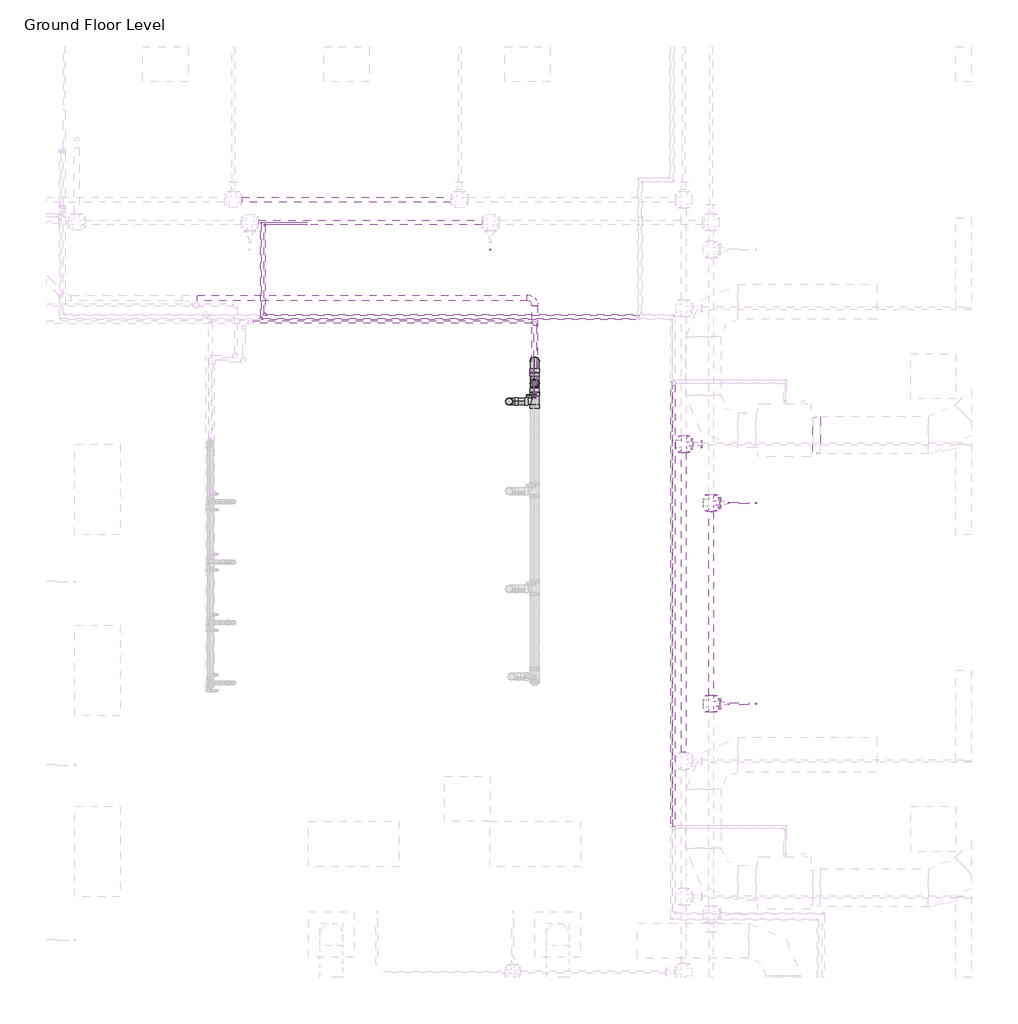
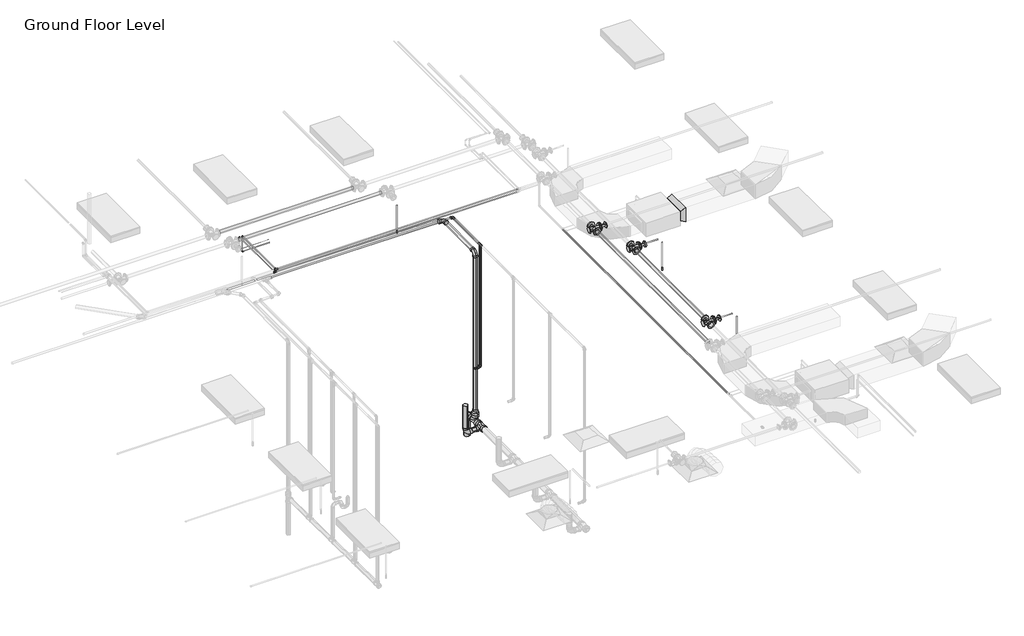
# One storey, part 65 of 72: 32 pipe segments, 24 pipe fittings, 3 fire suppression terminals, 1 duct fitting.
"""IFC4 building model written with IfcOpenShell, lengths in millimetres."""

from ifc_helpers import new_model, si_unit, point, frame, frame_2d, origin, place, context, project, spatial, circle_curve, trimmed, segment, composite_curve, outline, extrude, transform, mapped, element, save
from components import m_rectangular_transition_angle_45_degree_2b595dfe, m_sprinkler_pendent_15_mm_pendent_06fcbd8e, m_bend_pvc_sch_40_dwv_standard_a4b99d37, m_bend_pvc_sch_40_dwv_standard_b7b4a97e, m_bend_pvc_sch_40_dwv_standard_c8221c0d, m_bend_pvc_sch_40_dwv_standard_69456cca, m_elbow_generic_standard_a088f956, m_elbow_generic_standard_2a704253, m_elbow_generic_standard_6b1a80c6, m_elbow_generic_standard_5542be81, m_reducer_flanged_cs_class_150_standard_9dfe9ec5, m_reducer_flanged_cs_class_150_standard_a7631c35, m_reducer_pvc_sch_40_dwv_standard_9996614f, m_tee_generic_standard_cdc1cff5, m_tee_generic_standard_bbfc025c, m_tee_reducing_sanitary_pvc_sch_40_dwv_standard_b49161a9, m_tee_reducing_sanitary_pvc_sch_40_dwv_standard_c42f3c59, m_tee_round_base_flanged_cs_class_150_standard_dd767e04, m_transition_generic_standard_e9aec4dd, m_transition_generic_standard_c2658a33, standard_517a5a8d, standard_72b35c3b

model = new_model("IFC4")

# Units and contexts
model_context = context("Model", 3, world=origin())
ifc_project = project(units=[si_unit("LENGTHUNIT", "METRE", prefix="MILLI")], contexts=[model_context])

# Site, building, storey
site = spatial("IfcSite", under=ifc_project)
building = spatial("IfcBuilding", under=site)
storey = spatial("IfcBuildingStorey", under=building, Name="Ground Floor Level", Elevation=900.0)

# Duct fitting
placement = place(None, origin())
m_rectangular_transition_angle_45_degree_shape = m_rectangular_transition_angle_45_degree_2b595dfe(model_context)
element("IfcDuctFitting", 1, ObjectType="M_Rectangular Transition - Angle : 45 Degree", at=placement, inside=storey, context=model_context, shape_type="MappedRepresentation", body=[
    mapped(m_rectangular_transition_angle_45_degree_shape, transform((7344.2139492, 11956.1779527, 4100.0057729), x_axis=(1.0, 0.0, 0.0), y_axis=(0.0, 1.0, 0.0), z_axis=(0.0, 0.0, 1.0))),
])

# Fire suppression terminals
m_sprinkler_pendent_15_mm_pendent_shape = m_sprinkler_pendent_15_mm_pendent_06fcbd8e(model_context)
element("IfcFireSuppressionTerminal", 2, ObjectType="M_Sprinkler - Pendent : 15 mm Pendent", at=placement, inside=storey, context=model_context, shape_type="MappedRepresentation", body=[
    mapped(m_sprinkler_pendent_15_mm_pendent_shape, transform((3071.8868905, 14412.7243649, 3650.0), x_axis=(1.0, 0.0, 0.0), y_axis=(0.0, 1.0, 0.0), z_axis=(0.0, 0.0, 1.0))),
])
element("IfcFireSuppressionTerminal", 3, ObjectType="M_Sprinkler - Pendent : 15 mm Pendent", at=placement, inside=storey, context=model_context, shape_type="MappedRepresentation", body=[
    mapped(m_sprinkler_pendent_15_mm_pendent_shape, transform((6592.5481019, 11054.9808263, 3650.0), x_axis=(1.0, 0.0, 0.0), y_axis=(0.0, 1.0, 0.0), z_axis=(0.0, 0.0, 1.0))),
])
element("IfcFireSuppressionTerminal", 4, ObjectType="M_Sprinkler - Pendent : 15 mm Pendent", at=placement, inside=storey, context=model_context, shape_type="MappedRepresentation", body=[
    mapped(m_sprinkler_pendent_15_mm_pendent_shape, transform((6592.5481019, 8393.5579106, 3650.0), x_axis=(1.0, 0.0, 0.0), y_axis=(0.0, 1.0, 0.0), z_axis=(0.0, 0.0, 1.0))),
])

# Pipe fittings
m_bend_pvc_sch_40_dwv_standard_shape = m_bend_pvc_sch_40_dwv_standard_a4b99d37(model_context)
element("IfcPipeFitting", 5, ObjectType="M_Bend - PVC - Sch 40 - DWV : Standard", at=placement, inside=storey, context=model_context, shape_type="MappedRepresentation", body=[
    mapped(m_bend_pvc_sch_40_dwv_standard_shape, transform((3319.2245422, 12401.0385609, 390.1593073), x_axis=(0.0, 0.0, -1.0), y_axis=(1.0, 0.0, 0.0), z_axis=(0.0, -1.0, 0.0))),
])
m_bend_pvc_sch_40_dwv_standard_2_shape = m_bend_pvc_sch_40_dwv_standard_b7b4a97e(model_context)
element("IfcPipeFitting", 6, ObjectType="M_Bend - PVC - Sch 40 - DWV : Standard", at=placement, inside=storey, context=model_context, shape_type="MappedRepresentation", body=[
    mapped(m_bend_pvc_sch_40_dwv_standard_2_shape, transform((3657.4922763, 12931.9692954, 384.8), x_axis=(0.0, 0.9999500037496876, -0.00999950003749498), y_axis=(0.0, -0.00999950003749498, -0.9999500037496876), z_axis=(-1.0, 0.0, 0.0))),
])
m_bend_pvc_sch_40_dwv_standard_3_shape = m_bend_pvc_sch_40_dwv_standard_c8221c0d(model_context)
element("IfcPipeFitting", 7, ObjectType="M_Bend - PVC - Sch 40 - DWV : Standard", at=placement, inside=storey, context=model_context, shape_type="MappedRepresentation", body=[
    mapped(m_bend_pvc_sch_40_dwv_standard_3_shape, transform((3657.4860907, 12640.4076203, 4054.1870995), x_axis=(0.0, 0.0, 1.0), y_axis=(0.0, 1.0, 0.0), z_axis=(-1.0, 0.0, 0.0))),
])
m_bend_pvc_sch_40_dwv_standard_4_shape = m_bend_pvc_sch_40_dwv_standard_69456cca(model_context)
element("IfcPipeFitting", 8, ObjectType="M_Bend - PVC - Sch 40 - DWV : Standard", at=placement, inside=storey, context=model_context, shape_type="MappedRepresentation", body=[
    mapped(m_bend_pvc_sch_40_dwv_standard_4_shape, transform((3657.4860907, 13768.7316659, 4065.526469), x_axis=(0.0, 0.9999495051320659, 0.010049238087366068), y_axis=(-0.9999499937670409, -0.00010049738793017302, 0.009999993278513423), z_axis=(0.01000049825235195, -0.010048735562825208, 0.9998995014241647))),
])
m_elbow_generic_standard_shape = m_elbow_generic_standard_a088f956(model_context)
element("IfcPipeFitting", 9, ObjectType="M_Elbow - Generic : Standard", at=placement, inside=storey, context=model_context, shape_type="MappedRepresentation", body=[
    mapped(m_elbow_generic_standard_shape, transform((79.6672395, 14745.2153534, 4380.0), x_axis=(0.0, 0.0, 1.0), y_axis=(0.0, -1.0, 0.0), z_axis=(1.0, 0.0, 0.0))),
])
m_elbow_generic_standard_2_shape = m_elbow_generic_standard_2a704253(model_context)
element("IfcPipeFitting", 10, ObjectType="M_Elbow - Generic : Standard", at=placement, inside=storey, context=model_context, shape_type="MappedRepresentation", body=[
    mapped(m_elbow_generic_standard_2_shape, transform((29.9807053, 14770.2153534, 4365.0), x_axis=(0.0, 0.0, 1.0), y_axis=(0.0, -1.0, 0.0), z_axis=(1.0, 0.0, 0.0))),
])
m_elbow_generic_standard_3_shape = m_elbow_generic_standard_6b1a80c6(model_context)
element("IfcPipeFitting", 11, ObjectType="M_Elbow - Generic : Standard", at=placement, inside=storey, context=model_context, shape_type="MappedRepresentation", body=[
    mapped(m_elbow_generic_standard_3_shape, transform((79.6640192, 14745.2153534, 4034.0996164), x_axis=(0.0, 0.0, -1.0), y_axis=(1.0, 0.0, 0.0), z_axis=(0.0, -1.0, 0.0))),
])
m_elbow_generic_standard_4_shape = m_elbow_generic_standard_5542be81(model_context)
element("IfcPipeFitting", 12, ObjectType="M_Elbow - Generic : Standard", at=placement, inside=storey, context=model_context, shape_type="MappedRepresentation", body=[
    mapped(m_elbow_generic_standard_4_shape, transform((29.9777475, 14770.2153534, 4084.8996164), x_axis=(0.0, 0.0, -1.0), y_axis=(1.0, 0.0, 0.0), z_axis=(0.0, -1.0, 0.0))),
])
m_reducer_flanged_cs_class_150_standard_shape = m_reducer_flanged_cs_class_150_standard_9dfe9ec5(model_context)
element("IfcPipeFitting", 13, ObjectType="M_Reducer - Flanged - CS - Class 150 : Standard", at=placement, inside=storey, context=model_context, shape_type="MappedRepresentation", body=[
    mapped(m_reducer_flanged_cs_class_150_standard_shape, transform((6111.057812, 11054.9808263, 4291.2754753), x_axis=(1.0, 0.0, 0.0), y_axis=(0.0, 0.0, -1.0), z_axis=(0.0, 1.0, 0.0))),
])
element("IfcPipeFitting", 14, ObjectType="M_Reducer - Flanged - CS - Class 150 : Standard", at=placement, inside=storey, context=model_context, shape_type="MappedRepresentation", body=[
    mapped(m_reducer_flanged_cs_class_150_standard_shape, transform((6111.057812, 8393.5579106, 4291.2754753), x_axis=(1.0, 0.0, 0.0), y_axis=(0.0, 0.0, -1.0), z_axis=(0.0, 1.0, 0.0))),
])
m_reducer_flanged_cs_class_150_standard_2_shape = m_reducer_flanged_cs_class_150_standard_a7631c35(model_context)
element("IfcPipeFitting", 15, ObjectType="M_Reducer - Flanged - CS - Class 150 : Standard", at=placement, inside=storey, context=model_context, shape_type="MappedRepresentation", body=[
    mapped(m_reducer_flanged_cs_class_150_standard_2_shape, transform((5749.869498, 11835.2153534, 4360.0), x_axis=(1.0, 0.0, 0.0), y_axis=(0.0, 0.0, 1.0), z_axis=(0.0, -1.0, 0.0))),
])
m_reducer_pvc_sch_40_dwv_standard_shape = m_reducer_pvc_sch_40_dwv_standard_9996614f(model_context)
element("IfcPipeFitting", 16, ObjectType="M_Reducer - PVC - Sch 40 - DWV : Standard", at=placement, inside=storey, context=model_context, shape_type="MappedRepresentation", body=[
    mapped(m_reducer_pvc_sch_40_dwv_standard_shape, transform((3657.4891752, 12640.1615283, 533.8243961), x_axis=(0.0, 7.101608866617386e-05, 0.9999999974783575), y_axis=(0.0, 0.9999999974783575, -7.101608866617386e-05), z_axis=(-1.0, 0.0, 0.0))),
])
m_tee_generic_standard_shape = m_tee_generic_standard_cdc1cff5(model_context)
element("IfcPipeFitting", 17, ObjectType="M_Tee - Generic : Standard", at=placement, inside=storey, context=model_context, shape_type="MappedRepresentation", body=[
    mapped(m_tee_generic_standard_shape, transform((29.9807053, 13494.0185138, 4365.0), x_axis=(-1.0, 0.0, 0.0), y_axis=(0.0, -1.0, 0.0), z_axis=(0.0, 0.0, 1.0))),
])
m_tee_generic_standard_2_shape = m_tee_generic_standard_bbfc025c(model_context)
element("IfcPipeFitting", 18, ObjectType="M_Tee - Generic : Standard", at=placement, inside=storey, context=model_context, shape_type="MappedRepresentation", body=[
    mapped(m_tee_generic_standard_2_shape, transform((79.6672395, 13545.2153534, 4380.0), x_axis=(-1.0, 0.0, 0.0), y_axis=(0.0, -1.0, 0.0), z_axis=(0.0, 0.0, 1.0))),
])
m_tee_reducing_sanitary_pvc_sch_40_dwv_standard_shape = m_tee_reducing_sanitary_pvc_sch_40_dwv_standard_b49161a9(model_context)
element("IfcPipeFitting", 19, ObjectType="M_Tee Reducing Sanitary - PVC - Sch 40 - DWV : Standard", at=placement, inside=storey, context=model_context, shape_type="MappedRepresentation", body=[
    mapped(m_tee_reducing_sanitary_pvc_sch_40_dwv_standard_shape, transform((3657.4922763, 12401.038061, 390.1093123), x_axis=(0.0, -0.9999500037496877, 0.009999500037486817), y_axis=(1.0000000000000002, 0.0, 0.0), z_axis=(0.0, 0.009999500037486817, 0.9999500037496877))),
])
m_tee_reducing_sanitary_pvc_sch_40_dwv_standard_2_shape = m_tee_reducing_sanitary_pvc_sch_40_dwv_standard_c42f3c59(model_context)
element("IfcPipeFitting", 20, ObjectType="M_Tee Reducing Sanitary - PVC - Sch 40 - DWV : Standard", at=placement, inside=storey, context=model_context, shape_type="MappedRepresentation", body=[
    mapped(m_tee_reducing_sanitary_pvc_sch_40_dwv_standard_2_shape, transform((3657.4922763, 12640.3832411, 387.7158605), x_axis=(0.0, -0.9999500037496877, 0.009999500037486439), y_axis=(0.0, -0.009999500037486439, -0.9999500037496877), z_axis=(1.0, 0.0, 0.0))),
])
m_tee_round_base_flanged_cs_class_150_standard_shape = m_tee_round_base_flanged_cs_class_150_standard_dd767e04(model_context)
element("IfcPipeFitting", 21, ObjectType="M_Tee Round Base - Flanged - CS - Class 150 : Standard", at=placement, inside=storey, context=model_context, shape_type="MappedRepresentation", body=[
    mapped(m_tee_round_base_flanged_cs_class_150_standard_shape, transform((5997.057812, 11054.9808263, 4291.0943441), x_axis=(0.0, 1.0, 0.0), y_axis=(-1.0, 0.0, 0.0), z_axis=(0.0, 0.0, 1.0))),
])
element("IfcPipeFitting", 22, ObjectType="M_Tee Round Base - Flanged - CS - Class 150 : Standard", at=placement, inside=storey, context=model_context, shape_type="MappedRepresentation", body=[
    mapped(m_tee_round_base_flanged_cs_class_150_standard_shape, transform((5997.057812, 8393.5579106, 4291.0943441), x_axis=(0.0, 1.0, 0.0), y_axis=(-1.0, 0.0, 0.0), z_axis=(0.0, 0.0, 1.0))),
])
element("IfcPipeFitting", 23, ObjectType="M_Tee Round Base - Flanged - CS - Class 150 : Standard", at=placement, inside=storey, context=model_context, shape_type="MappedRepresentation", body=[
    mapped(m_tee_round_base_flanged_cs_class_150_standard_shape, transform((5635.869498, 11835.2153534, 4360.0), x_axis=(0.0, 1.0, 0.0), y_axis=(-1.0, 0.0, 0.0), z_axis=(0.0, 0.0, 1.0))),
])
m_transition_generic_standard_shape = m_transition_generic_standard_e9aec4dd(model_context)
element("IfcPipeFitting", 24, ObjectType="M_Transition - Generic : Standard", at=placement, inside=storey, context=model_context, shape_type="MappedRepresentation", body=[
    mapped(m_transition_generic_standard_shape, transform((79.6672395, 13570.6153534, 4380.0), x_axis=(0.0, 1.0, 0.0), y_axis=(-1.0, 0.0, 0.0), z_axis=(0.0, 0.0, 1.0))),
])
m_transition_generic_standard_2_shape = m_transition_generic_standard_c2658a33(model_context)
element("IfcPipeFitting", 25, ObjectType="M_Transition - Generic : Standard", at=placement, inside=storey, context=model_context, shape_type="MappedRepresentation", body=[
    mapped(m_transition_generic_standard_2_shape, transform((29.9807053, 13516.2435138, 4365.0), x_axis=(0.0, 1.0, 0.0), y_axis=(-1.0, 0.0, 0.0), z_axis=(0.0, 0.0, 1.0))),
])
standard_shape = standard_517a5a8d(model_context)
element("IfcPipeFitting", 26, ObjectType="M_Elbow - CPVC - Sch 40 : Standard", at=placement, inside=storey, context=model_context, shape_type="MappedRepresentation", body=[
    mapped(standard_shape, transform((3662.4674395, 13449.9865561, 4315.0), x_axis=(0.0, 1.0, 0.0), y_axis=(-1.0, 0.0, 0.0), z_axis=(0.0, 0.0, 1.0))),
])
element("IfcPipeFitting", 27, ObjectType="M_Elbow - CPVC - Sch 40 : Standard", at=placement, inside=storey, context=model_context, shape_type="MappedRepresentation", body=[
    mapped(standard_shape, transform((3662.4674395, 12474.4768272, 1655.0), x_axis=(0.0, 0.0, -1.0), y_axis=(-1.0, 0.0, 0.0), z_axis=(0.0, 1.0, 0.0))),
])
standard_2_shape = standard_72b35c3b(model_context)
element("IfcPipeFitting", 28, ObjectType="M_Tee - CPVC - Sch 40 : Standard", at=placement, inside=storey, context=model_context, shape_type="MappedRepresentation", body=[
    mapped(standard_2_shape, transform((3662.4674395, 12474.4768272, 4315.0), x_axis=(0.0, -1.0, 0.0), y_axis=(0.0, 0.0, 1.0), z_axis=(-1.0, 0.0, 0.0))),
])

# Pipe segments
element("IfcPipeSegment", 29, ObjectType="CPVC", at=placement, inside=storey, context=model_context, shape_type="SweptSolid", body=[
    extrude(outline(composite_curve([segment(trimmed(circle_curve(frame_2d((13449.9865561, 4315.0)), 16.7005), [point((13433.2860561, 4315.0))], [point((13449.9865561, 4331.7005))], False, "CARTESIAN"), True, "CONTINUOUS"), segment(trimmed(circle_curve(frame_2d((13449.9865561, 4315.0)), 16.7005), [point((13449.9865561, 4331.7005))], [point((13466.6870561, 4315.0))], False, "CARTESIAN"), True, "CONTINUOUS"), segment(trimmed(circle_curve(frame_2d((13449.9865561, 4315.0)), 16.7005), [point((13466.6870561, 4315.0))], [point((13449.9865561, 4298.2995))], False, "CARTESIAN"), True, "CONTINUOUS"), segment(trimmed(circle_curve(frame_2d((13449.9865561, 4315.0)), 16.7005), [point((13449.9865561, 4298.2995))], [point((13433.2860561, 4315.0))], False, "CARTESIAN"), True, "CONTINUOUS")], self_intersect=False)), frame((-77.1388855, 0.0, 0.0), z_axis=(1.0, 0.0, 0.0), x_axis=(0.0, 1.0, 0.0)), (0.0, 0.0, 1.0), 3696.343775),
])
element("IfcPipeSegment", 30, ObjectType="CPVC", at=placement, inside=storey, context=model_context, shape_type="SweptSolid", body=[
    extrude(outline(composite_curve([segment(trimmed(circle_curve(frame_2d((12474.4768272, 1655.0)), 16.7005), [point((12491.1773272, 1655.0))], [point((12474.4768272, 1638.2995))], False, "CARTESIAN"), True, "CONTINUOUS"), segment(trimmed(circle_curve(frame_2d((12474.4768272, 1655.0)), 16.7005), [point((12474.4768272, 1638.2995))], [point((12457.7763272, 1655.0))], False, "CARTESIAN"), True, "CONTINUOUS"), segment(trimmed(circle_curve(frame_2d((12474.4768272, 1655.0)), 16.7005), [point((12457.7763272, 1655.0))], [point((12474.4768272, 1671.7005))], False, "CARTESIAN"), True, "CONTINUOUS"), segment(trimmed(circle_curve(frame_2d((12474.4768272, 1655.0)), 16.7005), [point((12474.4768272, 1671.7005))], [point((12491.1773272, 1655.0))], False, "CARTESIAN"), True, "CONTINUOUS")], self_intersect=False)), frame((3552.7672395, 0.0, 0.0), z_axis=(1.0, 0.0, 0.0), x_axis=(0.0, 1.0, 0.0)), (0.0, 0.0, 1.0), 66.43765),
])
element("IfcPipeSegment", 31, ObjectType="CPVC", at=placement, inside=storey, context=model_context, shape_type="SweptSolid", body=[
    extrude(outline(composite_curve([segment(trimmed(circle_curve(frame_2d((3662.4674395, 12474.4768272)), 16.7005), [point((3679.1679395, 12474.4768272))], [point((3662.4674395, 12457.7763272))], False, "CARTESIAN"), True, "CONTINUOUS"), segment(trimmed(circle_curve(frame_2d((3662.4674395, 12474.4768272)), 16.7005), [point((3662.4674395, 12457.7763272))], [point((3645.7669395, 12474.4768272))], False, "CARTESIAN"), True, "CONTINUOUS"), segment(trimmed(circle_curve(frame_2d((3662.4674395, 12474.4768272)), 16.7005), [point((3645.7669395, 12474.4768272))], [point((3662.4674395, 12491.1773272))], False, "CARTESIAN"), True, "CONTINUOUS"), segment(trimmed(circle_curve(frame_2d((3662.4674395, 12474.4768272)), 16.7005), [point((3662.4674395, 12491.1773272))], [point((3679.1679395, 12474.4768272))], False, "CARTESIAN"), True, "CONTINUOUS")], self_intersect=False)), frame((0.0, 0.0, 1698.26255), z_axis=(0.0, 0.0, 1.0), x_axis=(1.0, 0.0, 0.0)), (0.0, 0.0, 1.0), 2577.03725),
])
element("IfcPipeSegment", 32, ObjectType="CPVC", at=placement, inside=storey, context=model_context, shape_type="SweptSolid", body=[
    extrude(outline(composite_curve([segment(trimmed(circle_curve(frame_2d((4315.0, 3662.4674395)), 16.7005), [point((4315.0, 3645.7669395))], [point((4298.2995, 3662.4674395))], False, "CARTESIAN"), True, "CONTINUOUS"), segment(trimmed(circle_curve(frame_2d((4315.0, 3662.4674395)), 16.7005), [point((4298.2995, 3662.4674395))], [point((4315.0, 3679.1679395))], False, "CARTESIAN"), True, "CONTINUOUS"), segment(trimmed(circle_curve(frame_2d((4315.0, 3662.4674395)), 16.7005), [point((4315.0, 3679.1679395))], [point((4331.7005, 3662.4674395))], False, "CARTESIAN"), True, "CONTINUOUS"), segment(trimmed(circle_curve(frame_2d((4315.0, 3662.4674395)), 16.7005), [point((4331.7005, 3662.4674395))], [point((4315.0, 3645.7669395))], False, "CARTESIAN"), True, "CONTINUOUS")], self_intersect=False)), frame((0.0, 12514.1770272, 0.0), z_axis=(0.0, 1.0, 0.0), x_axis=(0.0, 0.0, 1.0)), (0.0, 0.0, 1.0), 892.546979),
])
element("IfcPipeSegment", 33, ObjectType="Copper", at=placement, inside=storey, context=model_context, shape_type="SweptSolid", body=[
    extrude(outline(composite_curve([segment(trimmed(circle_curve(frame_2d((0.0, -6.5)), 6.5), [point((-6.5, -6.5))], [point((0.0, 0.0))], False, "CARTESIAN"), True, "CONTINUOUS"), segment(trimmed(circle_curve(frame_2d((0.0, -6.5)), 6.5), [point((0.0, 0.0))], [point((6.5, -6.5))], False, "CARTESIAN"), True, "CONTINUOUS"), segment(trimmed(circle_curve(frame_2d((0.0, -6.5)), 6.5), [point((6.5, -6.5))], [point((0.0, -13.0))], False, "CARTESIAN"), True, "CONTINUOUS"), segment(trimmed(circle_curve(frame_2d((0.0, -6.5)), 6.5), [point((0.0, -13.0))], [point((-6.5, -6.5))], False, "CARTESIAN"), True, "CONTINUOUS")], self_intersect=False)), frame((639.667096, 14745.2153534, 4027.5872564), z_axis=(-0.9999999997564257, 0.0, 2.207144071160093e-05), x_axis=(0.0, 1.0, 0.0)), (0.0, 0.0, 1.0), 545.7160357),
])
element("IfcPipeSegment", 34, ObjectType="Copper", at=placement, inside=storey, context=model_context, shape_type="SweptSolid", body=[
    extrude(outline(composite_curve([segment(trimmed(circle_curve(frame_2d((0.0, -3.35)), 3.35), [point((-3.35, -3.35))], [point((0.0, 0.0))], False, "CARTESIAN"), True, "CONTINUOUS"), segment(trimmed(circle_curve(frame_2d((0.0, -3.35)), 3.35), [point((0.0, 0.0))], [point((3.35, -3.35))], False, "CARTESIAN"), True, "CONTINUOUS"), segment(trimmed(circle_curve(frame_2d((0.0, -3.35)), 3.35), [point((3.35, -3.35))], [point((0.0, -6.7))], False, "CARTESIAN"), True, "CONTINUOUS"), segment(trimmed(circle_curve(frame_2d((0.0, -3.35)), 3.35), [point((0.0, -6.7))], [point((-3.35, -3.35))], False, "CARTESIAN"), True, "CONTINUOUS")], self_intersect=False)), frame((639.6671716, 14770.2153534, 4081.5372564), z_axis=(-0.9999999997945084, 0.0, 2.027272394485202e-05), x_axis=(0.0, 1.0, 0.0)), (0.0, 0.0, 1.0), 598.5522179),
])
element("IfcPipeSegment", 35, ObjectType="Copper", at=placement, inside=storey, context=model_context, shape_type="SweptSolid", body=[
    extrude(outline(composite_curve([segment(trimmed(circle_curve(frame_2d((4380.0, 79.6672395)), 6.5), [point((4380.0, 73.1672395))], [point((4373.5, 79.6672395))], False, "CARTESIAN"), True, "CONTINUOUS"), segment(trimmed(circle_curve(frame_2d((4380.0, 79.6672395)), 6.5), [point((4373.5, 79.6672395))], [point((4380.0, 86.1672395))], False, "CARTESIAN"), True, "CONTINUOUS"), segment(trimmed(circle_curve(frame_2d((4380.0, 79.6672395)), 6.5), [point((4380.0, 86.1672395))], [point((4386.5, 79.6672395))], False, "CARTESIAN"), True, "CONTINUOUS"), segment(trimmed(circle_curve(frame_2d((4380.0, 79.6672395)), 6.5), [point((4386.5, 79.6672395))], [point((4380.0, 73.1672395))], False, "CARTESIAN"), True, "CONTINUOUS")], self_intersect=False)), frame((0.0, 13576.9653534, 0.0), z_axis=(0.0, 1.0, 0.0), x_axis=(0.0, 0.0, 1.0)), (0.0, 0.0, 1.0), 1153.9625),
])
element("IfcPipeSegment", 36, ObjectType="Copper", at=placement, inside=storey, context=model_context, shape_type="SweptSolid", body=[
    extrude(outline(composite_curve([segment(trimmed(circle_curve(frame_2d((0.0, -6.5)), 6.5), [point((-6.5, -6.5))], [point((0.0, 0.0))], False, "CARTESIAN"), True, "CONTINUOUS"), segment(trimmed(circle_curve(frame_2d((0.0, -6.5)), 6.5), [point((0.0, 0.0))], [point((6.5, -6.5))], False, "CARTESIAN"), True, "CONTINUOUS"), segment(trimmed(circle_curve(frame_2d((0.0, -6.5)), 6.5), [point((6.5, -6.5))], [point((0.0, -13.0))], False, "CARTESIAN"), True, "CONTINUOUS"), segment(trimmed(circle_curve(frame_2d((0.0, -6.5)), 6.5), [point((0.0, -13.0))], [point((-6.5, -6.5))], False, "CARTESIAN"), True, "CONTINUOUS")], self_intersect=False)), frame((79.6640192, 14738.7153534, 4048.3868011), z_axis=(1.014803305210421e-05, 0.0, 0.9999999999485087), x_axis=(-0.9999999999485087, 0.0, 1.014803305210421e-05)), (0.0, 0.0, 1.0), 317.3256989),
])
element("IfcPipeSegment", 37, ObjectType="Copper", at=placement, inside=storey, context=model_context, shape_type="SweptSolid", body=[
    extrude(outline(composite_curve([segment(trimmed(circle_curve(frame_2d((4365.0, 29.9807053)), 3.35), [point((4365.0, 26.6307053))], [point((4361.65, 29.9807053))], False, "CARTESIAN"), True, "CONTINUOUS"), segment(trimmed(circle_curve(frame_2d((4365.0, 29.9807053)), 3.35), [point((4361.65, 29.9807053))], [point((4365.0, 33.3307053))], False, "CARTESIAN"), True, "CONTINUOUS"), segment(trimmed(circle_curve(frame_2d((4365.0, 29.9807053)), 3.35), [point((4365.0, 33.3307053))], [point((4368.35, 29.9807053))], False, "CARTESIAN"), True, "CONTINUOUS"), segment(trimmed(circle_curve(frame_2d((4365.0, 29.9807053)), 3.35), [point((4368.35, 29.9807053))], [point((4365.0, 26.6307053))], False, "CARTESIAN"), True, "CONTINUOUS")], self_intersect=False)), frame((0.0, 13521.0060138, 0.0), z_axis=(0.0, 1.0, 0.0), x_axis=(0.0, 0.0, 1.0)), (0.0, 0.0, 1.0), 1238.0718396),
])
element("IfcPipeSegment", 38, ObjectType="Copper", at=placement, inside=storey, context=model_context, shape_type="SweptSolid", body=[
    extrude(outline(composite_curve([segment(trimmed(circle_curve(frame_2d((0.0, -3.35)), 3.35), [point((-3.35, -3.35))], [point((0.0, 0.0))], False, "CARTESIAN"), True, "CONTINUOUS"), segment(trimmed(circle_curve(frame_2d((0.0, -3.35)), 3.35), [point((0.0, 0.0))], [point((3.35, -3.35))], False, "CARTESIAN"), True, "CONTINUOUS"), segment(trimmed(circle_curve(frame_2d((0.0, -3.35)), 3.35), [point((3.35, -3.35))], [point((0.0, -6.7))], False, "CARTESIAN"), True, "CONTINUOUS"), segment(trimmed(circle_curve(frame_2d((0.0, -3.35)), 3.35), [point((0.0, -6.7))], [point((-3.35, -3.35))], False, "CARTESIAN"), True, "CONTINUOUS")], self_intersect=False)), frame((29.9777475, 14766.8653534, 4096.0368906), z_axis=(1.1472088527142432e-05, 0.0, 0.9999999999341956), x_axis=(-0.9999999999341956, 0.0, 1.1472088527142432e-05)), (0.0, 0.0, 1.0), 257.8256094),
])
element("IfcPipeSegment", 39, ObjectType="Copper", at=placement, inside=storey, context=model_context, shape_type="SweptSolid", body=[
    extrude(outline(composite_curve([segment(trimmed(circle_curve(frame_2d((3851.8370709, 5505.0672395)), 11.5), [point((3851.8370709, 5493.5672395))], [point((3840.3370709, 5505.0672395))], False, "CARTESIAN"), True, "CONTINUOUS"), segment(trimmed(circle_curve(frame_2d((3851.8370709, 5505.0672395)), 11.5), [point((3840.3370709, 5505.0672395))], [point((3851.8370709, 5516.5672395))], False, "CARTESIAN"), True, "CONTINUOUS"), segment(trimmed(circle_curve(frame_2d((3851.8370709, 5505.0672395)), 11.5), [point((3851.8370709, 5516.5672395))], [point((3863.3370709, 5505.0672395))], False, "CARTESIAN"), True, "CONTINUOUS"), segment(trimmed(circle_curve(frame_2d((3851.8370709, 5505.0672395)), 11.5), [point((3863.3370709, 5505.0672395))], [point((3851.8370709, 5493.5672395))], False, "CARTESIAN"), True, "CONTINUOUS")], self_intersect=False)), frame((0.0, 6766.8098545, 0.0), z_axis=(0.0, 1.0, 0.0), x_axis=(0.0, 0.0, 1.0)), (0.0, 0.0, 1.0), 5849.2),
])
element("IfcPipeSegment", 40, ObjectType="Copper", at=placement, inside=storey, context=model_context, shape_type="SweptSolid", body=[
    extrude(outline(composite_curve([segment(trimmed(circle_curve(frame_2d((3894.9, 5472.2057053)), 8.1), [point((3894.9, 5464.1057053))], [point((3886.8, 5472.2057053))], False, "CARTESIAN"), True, "CONTINUOUS"), segment(trimmed(circle_curve(frame_2d((3894.9, 5472.2057053)), 8.1), [point((3886.8, 5472.2057053))], [point((3894.9, 5480.3057053))], False, "CARTESIAN"), True, "CONTINUOUS"), segment(trimmed(circle_curve(frame_2d((3894.9, 5472.2057053)), 8.1), [point((3894.9, 5480.3057053))], [point((3903.0, 5472.2057053))], False, "CARTESIAN"), True, "CONTINUOUS"), segment(trimmed(circle_curve(frame_2d((3894.9, 5472.2057053)), 8.1), [point((3903.0, 5472.2057053))], [point((3894.9, 5464.1057053))], False, "CARTESIAN"), True, "CONTINUOUS")], self_intersect=False)), frame((0.0, 6803.7503374, 0.0), z_axis=(0.0, 1.0, 0.0), x_axis=(0.0, 0.0, 1.0)), (0.0, 0.0, 1.0), 5855.55),
])
element("IfcPipeSegment", 41, ObjectType="Copper", at=placement, inside=storey, context=model_context, shape_type="SweptSolid", body=[
    extrude(outline(composite_curve([segment(trimmed(circle_curve(frame_2d((13494.0185138, 4365.0)), 8.1), [point((13485.9185138, 4365.0))], [point((13494.0185138, 4373.1))], False, "CARTESIAN"), True, "CONTINUOUS"), segment(trimmed(circle_curve(frame_2d((13494.0185138, 4365.0)), 8.1), [point((13494.0185138, 4373.1))], [point((13502.1185138, 4365.0))], False, "CARTESIAN"), True, "CONTINUOUS"), segment(trimmed(circle_curve(frame_2d((13494.0185138, 4365.0)), 8.1), [point((13502.1185138, 4365.0))], [point((13494.0185138, 4356.9))], False, "CARTESIAN"), True, "CONTINUOUS"), segment(trimmed(circle_curve(frame_2d((13494.0185138, 4365.0)), 8.1), [point((13494.0185138, 4356.9))], [point((13485.9185138, 4365.0))], False, "CARTESIAN"), True, "CONTINUOUS")], self_intersect=False)), frame((52.2057053, 0.0, 0.0), z_axis=(1.0, 0.0, 0.0), x_axis=(0.0, 1.0, 0.0)), (0.0, 0.0, 1.0), 4955.55),
])
element("IfcPipeSegment", 42, ObjectType="Copper", at=placement, inside=storey, context=model_context, shape_type="SweptSolid", body=[
    extrude(outline(composite_curve([segment(trimmed(circle_curve(frame_2d((13545.2153534, 4380.0)), 11.5), [point((13533.7153534, 4380.0))], [point((13545.2153534, 4391.5))], False, "CARTESIAN"), True, "CONTINUOUS"), segment(trimmed(circle_curve(frame_2d((13545.2153534, 4380.0)), 11.5), [point((13545.2153534, 4391.5))], [point((13556.7153534, 4380.0))], False, "CARTESIAN"), True, "CONTINUOUS"), segment(trimmed(circle_curve(frame_2d((13545.2153534, 4380.0)), 11.5), [point((13556.7153534, 4380.0))], [point((13545.2153534, 4368.5))], False, "CARTESIAN"), True, "CONTINUOUS"), segment(trimmed(circle_curve(frame_2d((13545.2153534, 4380.0)), 11.5), [point((13545.2153534, 4368.5))], [point((13533.7153534, 4380.0))], False, "CARTESIAN"), True, "CONTINUOUS")], self_intersect=False)), frame((105.0672395, 0.0, 0.0), z_axis=(1.0, 0.0, 0.0), x_axis=(0.0, 1.0, 0.0)), (0.0, 0.0, 1.0), 4949.2),
])
element("IfcPipeSegment", 43, ObjectType="PVC - DWV", at=placement, inside=storey, context=model_context, shape_type="SweptSolid", body=[
    extrude(outline(composite_curve([segment(trimmed(circle_curve(frame_2d((3657.4922763, 12931.9692954)), 57.15), [point((3714.6422763, 12931.9692954))], [point((3657.4922763, 12874.8192954))], False, "CARTESIAN"), True, "CONTINUOUS"), segment(trimmed(circle_curve(frame_2d((3657.4922763, 12931.9692954)), 57.15), [point((3657.4922763, 12874.8192954))], [point((3600.3422763, 12931.9692954))], False, "CARTESIAN"), True, "CONTINUOUS"), segment(trimmed(circle_curve(frame_2d((3657.4922763, 12931.9692954)), 57.15), [point((3600.3422763, 12931.9692954))], [point((3657.4922763, 12989.1192954))], False, "CARTESIAN"), True, "CONTINUOUS"), segment(trimmed(circle_curve(frame_2d((3657.4922763, 12931.9692954)), 57.15), [point((3657.4922763, 12989.1192954))], [point((3714.6422763, 12931.9692954))], False, "CARTESIAN"), True, "CONTINUOUS")], self_intersect=False)), frame((0.0, 0.0, -100.0), z_axis=(0.0, 0.0, 1.0), x_axis=(1.0, 0.0, 0.0)), (0.0, 0.0, 1.0), 341.925),
])
element("IfcPipeSegment", 44, ObjectType="PVC - DWV", at=placement, inside=storey, context=model_context, shape_type="SweptSolid", body=[
    extrude(outline(composite_curve([segment(trimmed(circle_curve(frame_2d((0.0, -44.45)), 44.45), [point((-44.45, -44.45))], [point((0.0, 0.0))], False, "CARTESIAN"), True, "CONTINUOUS"), segment(trimmed(circle_curve(frame_2d((0.0, -44.45)), 44.45), [point((0.0, 0.0))], [point((44.45, -44.45))], False, "CARTESIAN"), True, "CONTINUOUS"), segment(trimmed(circle_curve(frame_2d((0.0, -44.45)), 44.45), [point((44.45, -44.45))], [point((0.0, -88.9))], False, "CARTESIAN"), True, "CONTINUOUS"), segment(trimmed(circle_curve(frame_2d((0.0, -44.45)), 44.45), [point((0.0, -88.9))], [point((-44.45, -44.45))], False, "CARTESIAN"), True, "CONTINUOUS")], self_intersect=False)), frame((3319.2245422, 12356.5885609, 506.0594614), z_axis=(0.0, -1.0330815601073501e-06, 0.9999999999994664), x_axis=(-1.0, 0.0, 0.0)), (0.0, 0.0, 1.0), 483.9404927),
])
element("IfcPipeSegment", 45, ObjectType="PVC - DWV", at=placement, inside=storey, context=model_context, shape_type="SweptSolid", body=[
    extrude(outline(composite_curve([segment(trimmed(circle_curve(frame_2d((12401.038061, 390.1093123)), 44.45), [point((12356.588061, 390.1093123))], [point((12401.038061, 434.5593123))], False, "CARTESIAN"), True, "CONTINUOUS"), segment(trimmed(circle_curve(frame_2d((12401.038061, 390.1093123)), 44.45), [point((12401.038061, 434.5593123))], [point((12445.488061, 390.1093123))], False, "CARTESIAN"), True, "CONTINUOUS"), segment(trimmed(circle_curve(frame_2d((12401.038061, 390.1093123)), 44.45), [point((12445.488061, 390.1093123))], [point((12401.038061, 345.6593123))], False, "CARTESIAN"), True, "CONTINUOUS"), segment(trimmed(circle_curve(frame_2d((12401.038061, 390.1093123)), 44.45), [point((12401.038061, 345.6593123))], [point((12356.588061, 390.1093123))], False, "CARTESIAN"), True, "CONTINUOUS")], self_intersect=False)), frame((3435.1247422, 0.0, 0.0), z_axis=(1.0, 0.0, 0.0), x_axis=(0.0, 1.0, 0.0)), (0.0, 0.0, 1.0), 93.767334),
])
element("IfcPipeSegment", 46, ObjectType="PVC - DWV", at=placement, inside=storey, context=model_context, shape_type="SweptSolid", body=[
    extrude(outline(composite_curve([segment(trimmed(circle_curve(frame_2d((0.0, 36.5125)), 36.5125), [point((36.5125, 36.5125))], [point((0.0, 0.0))], False, "CARTESIAN"), True, "CONTINUOUS"), segment(trimmed(circle_curve(frame_2d((0.0, 36.5125)), 36.5125), [point((0.0, 0.0))], [point((-36.5125, 36.5125))], False, "CARTESIAN"), True, "CONTINUOUS"), segment(trimmed(circle_curve(frame_2d((0.0, 36.5125)), 36.5125), [point((-36.5125, 36.5125))], [point((0.0, 73.025))], False, "CARTESIAN"), True, "CONTINUOUS"), segment(trimmed(circle_curve(frame_2d((0.0, 36.5125)), 36.5125), [point((0.0, 73.025))], [point((36.5125, 36.5125))], False, "CARTESIAN"), True, "CONTINUOUS")], self_intersect=False)), frame((3657.4860907, 12739.0497603, 4091.6927716), z_axis=(0.0, 0.9999495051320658, 0.010049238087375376), x_axis=(1.0, 0.0, 0.0)), (0.0, 0.0, 1.0), 930.3528981),
])
element("IfcPipeSegment", 47, ObjectType="PVC - DWV", at=placement, inside=storey, context=model_context, shape_type="SweptSolid", body=[
    extrude(outline(composite_curve([segment(trimmed(circle_curve(frame_2d((0.0, 57.1499999)), 57.15), [point((-57.15, 57.1499999))], [point((0.0, 114.3))], False, "CARTESIAN"), True, "CONTINUOUS"), segment(trimmed(circle_curve(frame_2d((0.0, 57.1499999)), 57.15), [point((0.0, 114.3))], [point((57.15, 57.1499999))], False, "CARTESIAN"), True, "CONTINUOUS"), segment(trimmed(circle_curve(frame_2d((0.0, 57.1499999)), 57.15), [point((57.15, 57.1499999))], [point((0.0, 0.0))], False, "CARTESIAN"), True, "CONTINUOUS"), segment(trimmed(circle_curve(frame_2d((0.0, 57.1499999)), 57.15), [point((0.0, 0.0))], [point((-57.15, 57.1499999))], False, "CARTESIAN"), True, "CONTINUOUS")], self_intersect=False)), frame((3657.4891752, 12583.0107966, 528.5214125), z_axis=(0.0, 0.0001378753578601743, 0.9999999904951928), x_axis=(1.0, 0.0, 0.0)), (0.0, 0.0, 1.0), 5.3108632),
])
element("IfcPipeSegment", 48, ObjectType="PVC - DWV", at=placement, inside=storey, context=model_context, shape_type="SweptSolid", body=[
    extrude(outline(composite_curve([segment(trimmed(circle_curve(frame_2d((0.0, -57.15)), 57.15), [point((57.15, -57.15))], [point((0.0, -114.3))], False, "CARTESIAN"), True, "CONTINUOUS"), segment(trimmed(circle_curve(frame_2d((0.0, -57.15)), 57.15), [point((0.0, -114.3))], [point((-57.15, -57.15))], False, "CARTESIAN"), True, "CONTINUOUS"), segment(trimmed(circle_curve(frame_2d((0.0, -57.15)), 57.15), [point((-57.15, -57.15))], [point((0.0, 0.0))], False, "CARTESIAN"), True, "CONTINUOUS"), segment(trimmed(circle_curve(frame_2d((0.0, -57.15)), 57.15), [point((0.0, 0.0))], [point((57.15, -57.15))], False, "CARTESIAN"), True, "CONTINUOUS")], self_intersect=False)), frame((3657.4922763, 12789.6729101, 443.3758213), z_axis=(0.0, -0.9999500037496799, 0.009999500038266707), x_axis=(1.0, 0.0, 0.0)), (0.0, 0.0, 1.0), 10.815727),
])
element("IfcPipeSegment", 49, ObjectType="PVC - DWV", at=placement, inside=storey, context=model_context, shape_type="SweptSolid", body=[
    extrude(outline(composite_curve([segment(trimmed(circle_curve(frame_2d((0.0, 36.5125)), 36.5125), [point((-36.5125, 36.5125))], [point((0.0, 73.025))], False, "CARTESIAN"), True, "CONTINUOUS"), segment(trimmed(circle_curve(frame_2d((0.0, 36.5125)), 36.5125), [point((0.0, 73.025))], [point((36.5125, 36.5125))], False, "CARTESIAN"), True, "CONTINUOUS"), segment(trimmed(circle_curve(frame_2d((0.0, 36.5125)), 36.5125), [point((36.5125, 36.5125))], [point((0.0, 0.0))], False, "CARTESIAN"), True, "CONTINUOUS"), segment(trimmed(circle_curve(frame_2d((0.0, 36.5125)), 36.5125), [point((0.0, 0.0))], [point((-36.5125, 36.5125))], False, "CARTESIAN"), True, "CONTINUOUS")], self_intersect=False)), frame((3657.4891752, 12603.6564102, 637.7731169), z_axis=(-9.298042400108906e-07, 7.1956944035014e-05, 0.9999999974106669), x_axis=(0.9999999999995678, 6.690470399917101e-11, 9.298042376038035e-07)), (0.0, 0.0, 1.0), 3317.402556),
])
element("IfcPipeSegment", 50, ObjectType="PVC - DWV", at=placement, inside=storey, context=model_context, shape_type="SweptSolid", body=[
    extrude(outline(composite_curve([segment(trimmed(circle_curve(frame_2d((0.0, -57.15)), 57.15), [point((57.15, -57.15))], [point((0.0, -114.3))], False, "CARTESIAN"), True, "CONTINUOUS"), segment(trimmed(circle_curve(frame_2d((0.0, -57.15)), 57.15), [point((0.0, -114.3))], [point((-57.15, -57.15))], False, "CARTESIAN"), True, "CONTINUOUS"), segment(trimmed(circle_curve(frame_2d((0.0, -57.15)), 57.15), [point((-57.15, -57.15))], [point((0.0, 0.0))], False, "CARTESIAN"), True, "CONTINUOUS"), segment(trimmed(circle_curve(frame_2d((0.0, -57.15)), 57.15), [point((0.0, 0.0))], [point((57.15, -57.15))], False, "CARTESIAN"), True, "CONTINUOUS")], self_intersect=False)), frame((3657.4922763, 12531.8027259, 445.9545231), z_axis=(0.0, -0.9999500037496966, 0.009999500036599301), x_axis=(1.0, 0.0, 0.0)), (0.0, 0.0, 1.0), 9.549703),
])
element("IfcPipeSegment", 51, ObjectType="PVC - DWV", at=placement, inside=storey, context=model_context, shape_type="SweptSolid", body=[
    extrude(outline(composite_curve([segment(trimmed(circle_curve(frame_2d((0.0, -36.5125)), 36.5125), [point((0.0, -73.025))], [point((-36.5125, -36.5125))], False, "CARTESIAN"), True, "CONTINUOUS"), segment(trimmed(circle_curve(frame_2d((0.0, -36.5125)), 36.5125), [point((-36.5125, -36.5125))], [point((0.0, 0.0))], False, "CARTESIAN"), True, "CONTINUOUS"), segment(trimmed(circle_curve(frame_2d((0.0, -36.5125)), 36.5125), [point((0.0, 0.0))], [point((36.5124999, -36.5125))], False, "CARTESIAN"), True, "CONTINUOUS"), segment(trimmed(circle_curve(frame_2d((0.0, -36.5125)), 36.5125), [point((36.5124999, -36.5125))], [point((0.0, -73.025))], False, "CARTESIAN"), True, "CONTINUOUS")], self_intersect=False)), frame((3558.47698, 13805.2441659, 4066.516709), z_axis=(-0.9999499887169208, 0.0, 0.010001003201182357), x_axis=(0.010001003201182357, 0.0, 0.9999499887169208)), (0.0, 0.0, 1.0), 4372.6285655),
])
element("IfcPipeSegment", 52, ObjectType="Steel flanged", at=placement, inside=storey, context=model_context, shape_type="SweptSolid", body=[
    extrude(outline(composite_curve([segment(trimmed(circle_curve(frame_2d((3071.8868905, 14412.7243649)), 10.668), [point((3061.2188905, 14412.7243649))], [point((3071.8868905, 14423.3923649))], False, "CARTESIAN"), True, "CONTINUOUS"), segment(trimmed(circle_curve(frame_2d((3071.8868905, 14412.7243649)), 10.668), [point((3071.8868905, 14423.3923649))], [point((3082.5548905, 14412.7243649))], False, "CARTESIAN"), True, "CONTINUOUS"), segment(trimmed(circle_curve(frame_2d((3071.8868905, 14412.7243649)), 10.668), [point((3082.5548905, 14412.7243649))], [point((3071.8868905, 14402.0563649))], False, "CARTESIAN"), True, "CONTINUOUS"), segment(trimmed(circle_curve(frame_2d((3071.8868905, 14412.7243649)), 10.668), [point((3071.8868905, 14402.0563649))], [point((3061.2188905, 14412.7243649))], False, "CARTESIAN"), True, "CONTINUOUS")], self_intersect=False)), frame((0.0, 0.0, 3650.0), z_axis=(0.0, 0.0, 1.0), x_axis=(1.0, 0.0, 0.0)), (0.0, 0.0, 1.0), 548.2668816),
])
element("IfcPipeSegment", 53, ObjectType="Steel flanged", at=placement, inside=storey, context=model_context, shape_type="SweptSolid", body=[
    extrude(outline(composite_curve([segment(trimmed(circle_curve(frame_2d((14773.4681847, 4291.0943441)), 30.1625), [point((14743.3056847, 4291.0943441))], [point((14773.4681847, 4321.2568441))], False, "CARTESIAN"), True, "CONTINUOUS"), segment(trimmed(circle_curve(frame_2d((14773.4681847, 4291.0943441)), 30.1625), [point((14773.4681847, 4321.2568441))], [point((14803.6306847, 4291.0943441))], False, "CARTESIAN"), True, "CONTINUOUS"), segment(trimmed(circle_curve(frame_2d((14773.4681847, 4291.0943441)), 30.1625), [point((14803.6306847, 4291.0943441))], [point((14773.4681847, 4260.9318441))], False, "CARTESIAN"), True, "CONTINUOUS"), segment(trimmed(circle_curve(frame_2d((14773.4681847, 4291.0943441)), 30.1625), [point((14773.4681847, 4260.9318441))], [point((14743.3056847, 4291.0943441))], False, "CARTESIAN"), True, "CONTINUOUS")], self_intersect=False)), frame((-4.3252882, 0.0, 0.0), z_axis=(1.0, 0.0, 0.0), x_axis=(0.0, 1.0, 0.0)), (0.0, 0.0, 1.0), 2962.2121787),
])
element("IfcPipeSegment", 54, ObjectType="Steel flanged", at=placement, inside=storey, context=model_context, shape_type="SweptSolid", body=[
    extrude(outline(composite_curve([segment(trimmed(circle_curve(frame_2d((6592.5481019, 11054.9808263)), 10.668), [point((6581.8801019, 11054.9808263))], [point((6592.5481019, 11065.6488263))], False, "CARTESIAN"), True, "CONTINUOUS"), segment(trimmed(circle_curve(frame_2d((6592.5481019, 11054.9808263)), 10.668), [point((6592.5481019, 11065.6488263))], [point((6603.2161019, 11054.9808263))], False, "CARTESIAN"), True, "CONTINUOUS"), segment(trimmed(circle_curve(frame_2d((6592.5481019, 11054.9808263)), 10.668), [point((6603.2161019, 11054.9808263))], [point((6592.5481019, 11044.3128263))], False, "CARTESIAN"), True, "CONTINUOUS"), segment(trimmed(circle_curve(frame_2d((6592.5481019, 11054.9808263)), 10.668), [point((6592.5481019, 11044.3128263))], [point((6581.8801019, 11054.9808263))], False, "CARTESIAN"), True, "CONTINUOUS")], self_intersect=False)), frame((0.0, 0.0, 3650.0), z_axis=(0.0, 0.0, 1.0), x_axis=(1.0, 0.0, 0.0)), (0.0, 0.0, 1.0), 548.2668816),
])
element("IfcPipeSegment", 55, ObjectType="Steel flanged", at=placement, inside=storey, context=model_context, shape_type="SweptSolid", body=[
    extrude(outline(composite_curve([segment(trimmed(circle_curve(frame_2d((11054.9808263, 4291.2754753)), 10.668), [point((11065.6488263, 4291.2754753))], [point((11054.9808263, 4280.6074753))], False, "CARTESIAN"), True, "CONTINUOUS"), segment(trimmed(circle_curve(frame_2d((11054.9808263, 4291.2754753)), 10.668), [point((11054.9808263, 4280.6074753))], [point((11044.3128263, 4291.2754753))], False, "CARTESIAN"), True, "CONTINUOUS"), segment(trimmed(circle_curve(frame_2d((11054.9808263, 4291.2754753)), 10.668), [point((11044.3128263, 4291.2754753))], [point((11054.9808263, 4301.9434753))], False, "CARTESIAN"), True, "CONTINUOUS"), segment(trimmed(circle_curve(frame_2d((11054.9808263, 4291.2754753)), 10.668), [point((11054.9808263, 4301.9434753))], [point((11065.6488263, 4291.2754753))], False, "CARTESIAN"), True, "CONTINUOUS")], self_intersect=False)), frame((6238.057812, 0.0, 0.0), z_axis=(1.0, 0.0, 0.0), x_axis=(0.0, 1.0, 0.0)), (0.0, 0.0, 1.0), 261.4816962),
])
element("IfcPipeSegment", 56, ObjectType="Steel flanged", at=placement, inside=storey, context=model_context, shape_type="SweptSolid", body=[
    extrude(outline(composite_curve([segment(trimmed(circle_curve(frame_2d((6592.5481019, 8393.5579106)), 10.668), [point((6581.8801019, 8393.5579106))], [point((6592.5481019, 8404.2259106))], False, "CARTESIAN"), True, "CONTINUOUS"), segment(trimmed(circle_curve(frame_2d((6592.5481019, 8393.5579106)), 10.668), [point((6592.5481019, 8404.2259106))], [point((6603.2161019, 8393.5579106))], False, "CARTESIAN"), True, "CONTINUOUS"), segment(trimmed(circle_curve(frame_2d((6592.5481019, 8393.5579106)), 10.668), [point((6603.2161019, 8393.5579106))], [point((6592.5481019, 8382.8899106))], False, "CARTESIAN"), True, "CONTINUOUS"), segment(trimmed(circle_curve(frame_2d((6592.5481019, 8393.5579106)), 10.668), [point((6592.5481019, 8382.8899106))], [point((6581.8801019, 8393.5579106))], False, "CARTESIAN"), True, "CONTINUOUS")], self_intersect=False)), frame((0.0, 0.0, 3650.0), z_axis=(0.0, 0.0, 1.0), x_axis=(1.0, 0.0, 0.0)), (0.0, 0.0, 1.0), 548.2668816),
])
element("IfcPipeSegment", 57, ObjectType="Steel flanged", at=placement, inside=storey, context=model_context, shape_type="SweptSolid", body=[
    extrude(outline(composite_curve([segment(trimmed(circle_curve(frame_2d((8393.5579106, 4291.2754753)), 10.668), [point((8404.2259106, 4291.2754753))], [point((8393.5579106, 4280.6074753))], False, "CARTESIAN"), True, "CONTINUOUS"), segment(trimmed(circle_curve(frame_2d((8393.5579106, 4291.2754753)), 10.668), [point((8393.5579106, 4280.6074753))], [point((8382.8899106, 4291.2754753))], False, "CARTESIAN"), True, "CONTINUOUS"), segment(trimmed(circle_curve(frame_2d((8393.5579106, 4291.2754753)), 10.668), [point((8382.8899106, 4291.2754753))], [point((8393.5579106, 4301.9434753))], False, "CARTESIAN"), True, "CONTINUOUS"), segment(trimmed(circle_curve(frame_2d((8393.5579106, 4291.2754753)), 10.668), [point((8393.5579106, 4301.9434753))], [point((8404.2259106, 4291.2754753))], False, "CARTESIAN"), True, "CONTINUOUS")], self_intersect=False)), frame((6238.057812, 0.0, 0.0), z_axis=(1.0, 0.0, 0.0), x_axis=(0.0, 1.0, 0.0)), (0.0, 0.0, 1.0), 261.4816962),
])
element("IfcPipeSegment", 58, ObjectType="Steel flanged", at=placement, inside=storey, context=model_context, shape_type="SweptSolid", body=[
    extrude(outline(composite_curve([segment(trimmed(circle_curve(frame_2d((4291.0943441, 5997.057812)), 30.1625), [point((4291.0943441, 5966.895312))], [point((4260.9318441, 5997.057812))], False, "CARTESIAN"), True, "CONTINUOUS"), segment(trimmed(circle_curve(frame_2d((4291.0943441, 5997.057812)), 30.1625), [point((4260.9318441, 5997.057812))], [point((4291.0943441, 6027.220312))], False, "CARTESIAN"), True, "CONTINUOUS"), segment(trimmed(circle_curve(frame_2d((4291.0943441, 5997.057812)), 30.1625), [point((4291.0943441, 6027.220312))], [point((4321.2568441, 5997.057812))], False, "CARTESIAN"), True, "CONTINUOUS"), segment(trimmed(circle_curve(frame_2d((4291.0943441, 5997.057812)), 30.1625), [point((4321.2568441, 5997.057812))], [point((4291.0943441, 5966.895312))], False, "CARTESIAN"), True, "CONTINUOUS")], self_intersect=False)), frame((0.0, 8507.5579106, 0.0), z_axis=(0.0, 1.0, 0.0), x_axis=(0.0, 0.0, 1.0)), (0.0, 0.0, 1.0), 2433.4229158),
])
element("IfcPipeSegment", 59, ObjectType="Steel flanged", at=placement, inside=storey, context=model_context, shape_type="SweptSolid", body=[
    extrude(outline(composite_curve([segment(trimmed(circle_curve(frame_2d((15073.2009828, 4360.0)), 30.1625), [point((15043.0384828, 4360.0))], [point((15073.2009828, 4390.1625))], False, "CARTESIAN"), True, "CONTINUOUS"), segment(trimmed(circle_curve(frame_2d((15073.2009828, 4360.0)), 30.1625), [point((15073.2009828, 4390.1625))], [point((15103.3634828, 4360.0))], False, "CARTESIAN"), True, "CONTINUOUS"), segment(trimmed(circle_curve(frame_2d((15073.2009828, 4360.0)), 30.1625), [point((15103.3634828, 4360.0))], [point((15073.2009828, 4329.8375))], False, "CARTESIAN"), True, "CONTINUOUS"), segment(trimmed(circle_curve(frame_2d((15073.2009828, 4360.0)), 30.1625), [point((15073.2009828, 4329.8375))], [point((15043.0384828, 4360.0))], False, "CARTESIAN"), True, "CONTINUOUS")], self_intersect=False)), frame((-223.2327605, 0.0, 0.0), z_axis=(1.0, 0.0, 0.0), x_axis=(0.0, 1.0, 0.0)), (0.0, 0.0, 1.0), 2772.0),
])
element("IfcPipeSegment", 60, ObjectType="Steel flanged", at=placement, inside=storey, context=model_context, shape_type="SweptSolid", body=[
    extrude(outline(composite_curve([segment(trimmed(circle_curve(frame_2d((4360.0, 5635.869498)), 30.1625), [point((4360.0, 5605.706998))], [point((4329.8375, 5635.869498))], False, "CARTESIAN"), True, "CONTINUOUS"), segment(trimmed(circle_curve(frame_2d((4360.0, 5635.869498)), 30.1625), [point((4329.8375, 5635.869498))], [point((4360.0, 5666.031998))], False, "CARTESIAN"), True, "CONTINUOUS"), segment(trimmed(circle_curve(frame_2d((4360.0, 5635.869498)), 30.1625), [point((4360.0, 5666.031998))], [point((4390.1625, 5635.869498))], False, "CARTESIAN"), True, "CONTINUOUS"), segment(trimmed(circle_curve(frame_2d((4360.0, 5635.869498)), 30.1625), [point((4390.1625, 5635.869498))], [point((4360.0, 5605.706998))], False, "CARTESIAN"), True, "CONTINUOUS")], self_intersect=False)), frame((0.0, 7749.2153534, 0.0), z_axis=(0.0, 1.0, 0.0), x_axis=(0.0, 0.0, 1.0)), (0.0, 0.0, 1.0), 3972.0),
])

save(model, "model.ifc")
